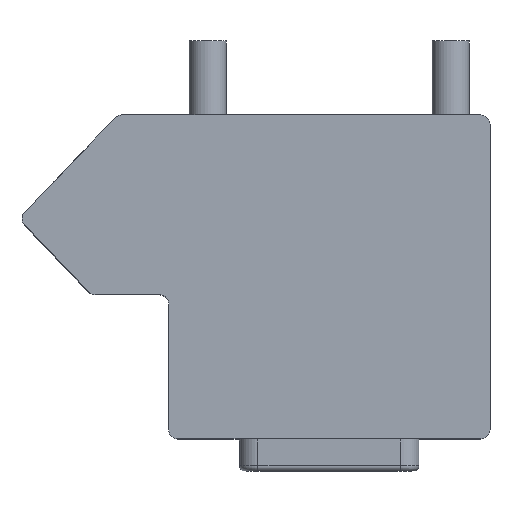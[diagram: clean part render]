
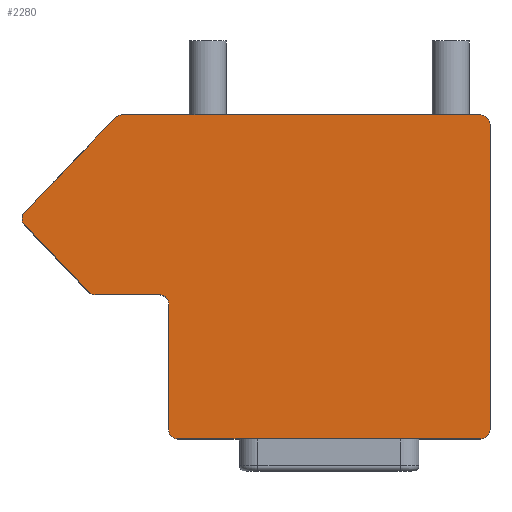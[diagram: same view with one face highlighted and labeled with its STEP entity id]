
A CAD part, top view. The second image highlights one B-rep face of the part: STEP entity #2280.
In plain terms, the highlighted planar face has unit normal (0, 0, 1).
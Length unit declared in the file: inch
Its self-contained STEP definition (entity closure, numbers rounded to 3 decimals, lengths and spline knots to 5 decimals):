
#276=CARTESIAN_POINT('',(0.842,1.40511,0.655));
#277=DIRECTION('',(0.,0.,1.));
#278=DIRECTION('',(-1.,0.,0.));
#279=AXIS2_PLACEMENT_3D('',#276,#277,#278);
#281=DIRECTION('',(0.,-1.,0.));
#282=VECTOR('',#281,0.6785);
#283=CARTESIAN_POINT('',(0.792,2.08361,0.655));
#284=LINE('',#283,#282);
#285=CARTESIAN_POINT('',(0.742,2.08361,0.655));
#286=DIRECTION('',(0.,0.,-1.));
#287=DIRECTION('',(0.,1.,0.));
#288=AXIS2_PLACEMENT_3D('',#285,#286,#287);
#290=DIRECTION('',(1.,0.,0.));
#291=VECTOR('',#290,0.34615);
#292=CARTESIAN_POINT('',(0.39585,2.13361,0.655));
#293=LINE('',#292,#291);
#294=CARTESIAN_POINT('',(0.39586,2.18361,0.655));
#295=DIRECTION('',(0.,0.,1.));
#296=DIRECTION('',(-0.722,-0.691,0.));
#297=AXIS2_PLACEMENT_3D('',#294,#295,#296);
#299=DIRECTION('',(0.691,-0.722,0.));
#300=VECTOR('',#299,0.50142);
#301=CARTESIAN_POINT('',(0.01302,2.51126,0.655));
#302=LINE('',#301,#300);
#303=CARTESIAN_POINT('',(0.05,2.54492,0.655));
#304=DIRECTION('',(0.,0.,1.));
#305=DIRECTION('',(-0.734,0.679,0.));
#306=AXIS2_PLACEMENT_3D('',#303,#304,#305);
#308=DIRECTION('',(-0.692,-0.722,0.));
#309=VECTOR('',#308,0.70695);
#310=CARTESIAN_POINT('',(0.50265,3.08904,0.655));
#311=LINE('',#310,#309);
#312=CARTESIAN_POINT('',(0.53938,3.05511,0.655));
#313=DIRECTION('',(0.,0.,1.));
#314=DIRECTION('',(0.,1.,0.));
#315=AXIS2_PLACEMENT_3D('',#312,#313,#314);
#317=DIRECTION('',(-1.,0.,0.));
#318=VECTOR('',#317,1.93913);
#319=CARTESIAN_POINT('',(2.4785,3.10511,0.655));
#320=LINE('',#319,#318);
#321=CARTESIAN_POINT('',(2.4785,3.05511,0.655));
#322=DIRECTION('',(0.,0.,1.));
#323=DIRECTION('',(1.,0.,0.));
#324=AXIS2_PLACEMENT_3D('',#321,#322,#323);
#326=DIRECTION('',(0.,1.,0.));
#327=VECTOR('',#326,1.65);
#328=CARTESIAN_POINT('',(2.5285,1.40511,0.655));
#329=LINE('',#328,#327);
#330=CARTESIAN_POINT('',(2.4785,1.40511,0.655));
#331=DIRECTION('',(0.,0.,1.));
#332=DIRECTION('',(0.,-1.,0.));
#333=AXIS2_PLACEMENT_3D('',#330,#331,#332);
#335=DIRECTION('',(1.,0.,0.));
#336=VECTOR('',#335,1.6365);
#337=CARTESIAN_POINT('',(0.842,1.35511,0.655));
#338=LINE('',#337,#336);
#1619=CARTESIAN_POINT('',(0.792,1.40511,0.655));
#1620=CARTESIAN_POINT('',(0.842,1.35511,0.655));
#1621=VERTEX_POINT('',#1619);
#1622=VERTEX_POINT('',#1620);
#1623=CARTESIAN_POINT('',(2.4785,1.35511,0.655));
#1624=VERTEX_POINT('',#1623);
#1625=CARTESIAN_POINT('',(2.5285,1.40511,0.655));
#1626=VERTEX_POINT('',#1625);
#1627=CARTESIAN_POINT('',(2.5285,3.05511,0.655));
#1628=VERTEX_POINT('',#1627);
#1629=CARTESIAN_POINT('',(2.4785,3.10511,0.655));
#1630=VERTEX_POINT('',#1629);
#1631=CARTESIAN_POINT('',(0.53938,3.10511,0.655));
#1632=VERTEX_POINT('',#1631);
#1633=CARTESIAN_POINT('',(0.50266,3.08904,0.655));
#1634=VERTEX_POINT('',#1633);
#1635=CARTESIAN_POINT('',(0.01328,2.57885,0.655));
#1636=VERTEX_POINT('',#1635);
#1637=CARTESIAN_POINT('',(0.01302,2.51126,0.655));
#1638=VERTEX_POINT('',#1637);
#1639=CARTESIAN_POINT('',(0.35973,2.14903,0.655));
#1640=VERTEX_POINT('',#1639);
#1641=CARTESIAN_POINT('',(0.39585,2.13361,0.655));
#1642=VERTEX_POINT('',#1641);
#1643=CARTESIAN_POINT('',(0.742,2.13361,0.655));
#1644=VERTEX_POINT('',#1643);
#1645=CARTESIAN_POINT('',(0.792,2.08361,0.655));
#1646=VERTEX_POINT('',#1645);
#2259=CARTESIAN_POINT('',(0.,0.,0.655));
#2260=DIRECTION('',(0.,0.,1.));
#2261=DIRECTION('',(1.,0.,0.));
#2262=AXIS2_PLACEMENT_3D('',#2259,#2260,#2261);
#2263=PLANE('',#2262);
#2264=ORIENTED_EDGE('',*,*,#2035,.F.);
#2265=ORIENTED_EDGE('',*,*,#2050,.F.);
#2266=ORIENTED_EDGE('',*,*,#2064,.F.);
#2267=ORIENTED_EDGE('',*,*,#2078,.F.);
#2268=ORIENTED_EDGE('',*,*,#2092,.F.);
#2269=ORIENTED_EDGE('',*,*,#2106,.F.);
#2270=ORIENTED_EDGE('',*,*,#2120,.F.);
#2271=ORIENTED_EDGE('',*,*,#2134,.F.);
#2272=ORIENTED_EDGE('',*,*,#2154,.F.);
#2273=ORIENTED_EDGE('',*,*,#2168,.F.);
#2274=ORIENTED_EDGE('',*,*,#2194,.F.);
#2275=ORIENTED_EDGE('',*,*,#2208,.F.);
#2276=ORIENTED_EDGE('',*,*,#2222,.F.);
#2277=ORIENTED_EDGE('',*,*,#2235,.F.);
#2278=EDGE_LOOP('',(#2264,#2265,#2266,#2267,#2268,#2269,#2270,#2271,#2272,#2273,
#2274,#2275,#2276,#2277));
#2279=FACE_OUTER_BOUND('',#2278,.F.);
#2280=ADVANCED_FACE('',(#2279),#2263,.T.);
#280=CIRCLE('',#279,0.05);
#289=CIRCLE('',#288,0.05);
#298=CIRCLE('',#297,0.05);
#307=CIRCLE('',#306,0.05);
#316=CIRCLE('',#315,0.05);
#325=CIRCLE('',#324,0.05);
#334=CIRCLE('',#333,0.05);
#2035=EDGE_CURVE('',#1621,#1622,#280,.T.);
#2050=EDGE_CURVE('',#1646,#1621,#284,.T.);
#2064=EDGE_CURVE('',#1644,#1646,#289,.T.);
#2078=EDGE_CURVE('',#1642,#1644,#293,.T.);
#2092=EDGE_CURVE('',#1640,#1642,#298,.T.);
#2106=EDGE_CURVE('',#1638,#1640,#302,.T.);
#2120=EDGE_CURVE('',#1636,#1638,#307,.T.);
#2134=EDGE_CURVE('',#1634,#1636,#311,.T.);
#2154=EDGE_CURVE('',#1632,#1634,#316,.T.);
#2168=EDGE_CURVE('',#1630,#1632,#320,.T.);
#2194=EDGE_CURVE('',#1628,#1630,#325,.T.);
#2208=EDGE_CURVE('',#1626,#1628,#329,.T.);
#2222=EDGE_CURVE('',#1624,#1626,#334,.T.);
#2235=EDGE_CURVE('',#1622,#1624,#338,.T.);
